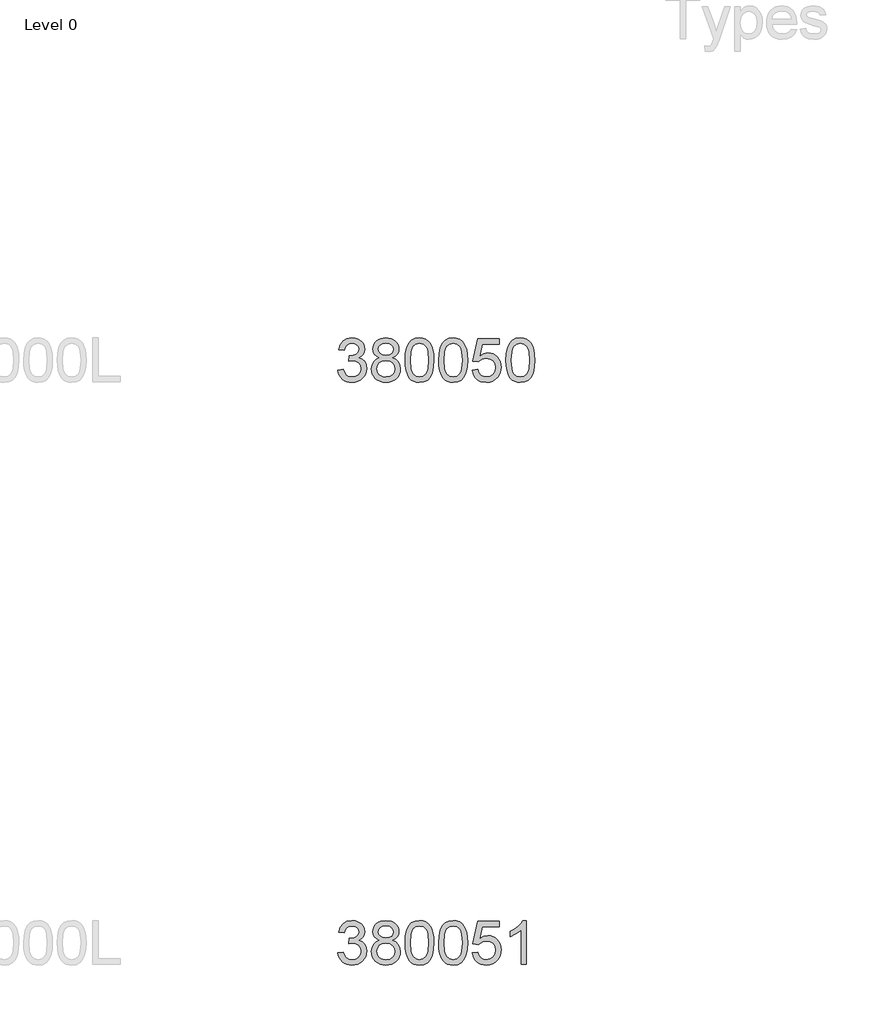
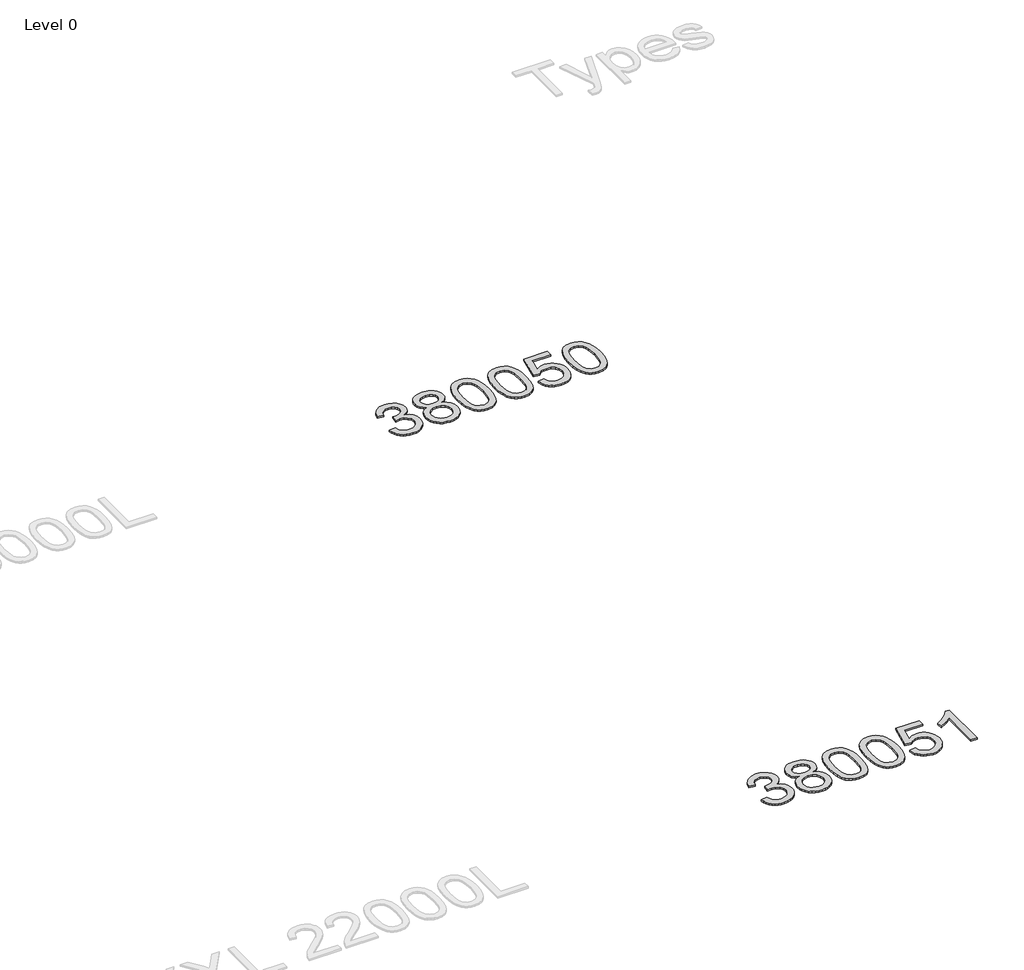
# One storey, part 17 of 37: 2 proxies.
"""IFC4 building model written with IfcOpenShell, lengths in millimetres."""

from ifc_helpers import new_model, si_unit, origin, origin_with_axes, place, context, project, spatial, polyline, outline, extrude, element, save

model = new_model("IFC4")

# Units and contexts
model_context = context("Model", 3, world=origin())
ifc_project = project(units=[si_unit("LENGTHUNIT", "METRE", prefix="MILLI")], contexts=[model_context])

# Site, building, storey
site = spatial("IfcSite", under=ifc_project)
building = spatial("IfcBuilding", under=site)
storey = spatial("IfcBuildingStorey", under=building, Name="Level 0", Elevation=0.0)

# Proxies
placement = place(None, origin())
element("IfcBuildingElementProxy", 1, Name="300mm Arial", ObjectType="300mm Arial", at=placement, inside=storey, context=model_context, shape_type="SweptSolid", body=[
    extrude(outline(polyline([(-6311.2846424, -1620.925676), (-6273.6135261, -1616.2167865), (-6265.1798313, -1639.8899929), (-6252.8281934, -1655.8744656), (-6235.9516068, -1664.979545), (-6213.9430665, -1668.0145714), (-6188.1177504, -1663.8391108), (-6168.1785463, -1651.3127288), (-6155.4314351, -1632.6243235), (-6151.1823981, -1609.9627926), (-6155.3946469, -1588.4508929), (-6168.0313935, -1571.0040893), (-6187.1612572, -1559.4433976), (-6210.8528577, -1555.5898337), (-6237.266785, -1559.710112), (-6233.0729302, -1522.0389957), (-6227.0396655, -1522.4804541), (-6204.4701051, -1519.7765215), (-6184.2917777, -1511.6647235), (-6170.0547444, -1497.942725), (-6165.3090667, -1478.4081911), (-6168.7487634, -1462.1386099), (-6179.0678533, -1448.9408433), (-6194.8132027, -1440.1944488), (-6214.5316777, -1437.278984), (-6234.2869408, -1440.22204), (-6250.4369604, -1449.0512079), (-6262.2275783, -1463.7664877), (-6268.9046365, -1484.3678794), (-6306.5757528, -1479.6589899), (-6295.4841107, -1445.8322404), (-6275.7472417, -1420.5771415), (-6248.7447032, -1404.8501862), (-6215.8560528, -1399.6078677), (-6192.1736494, -1402.1922387), (-6170.4226264, -1409.9453518), (-6152.083709, -1422.1774281), (-6138.637622, -1438.198689), (-6130.3878683, -1456.6571681), (-6127.6379504, -1476.2008991), (-6130.2499126, -1494.4110579), (-6138.0857991, -1510.9289595), (-6151.0352453, -1525.0004458), (-6168.9878867, -1535.8713587), (-6145.4066508, -1545.3995024), (-6127.932256, -1561.6230984), (-6117.1165253, -1583.6592299), (-6113.5112818, -1610.6249802), (-6115.3139036, -1629.7364498), (-6120.7217689, -1647.3396033), (-6129.7348778, -1663.4344406), (-6142.3532302, -1678.0209617), (-6157.7260991, -1690.1242793), (-6175.0027573, -1698.7695062), (-6194.1832048, -1703.9566423), (-6215.2674416, -1705.6856877), (-6234.323729, -1704.2095612), (-6251.6877592, -1699.7811817), (-6267.3595322, -1692.4005492), (-6281.339048, -1682.0676636), (-6293.0606881, -1669.3895304), (-6301.9588338, -1654.9731547), (-6308.0334853, -1638.8185366), (-6311.2846424, -1620.925676)])), origin_with_axes(), (0.0, 0.0, 1.0), 10.0),
    extrude(outline(polyline([(-6025.6610613, -1534.988442), (-6045.8301917, -1525.0556281), (-6059.9844515, -1511.5911471), (-6068.3445698, -1494.8709104), (-6071.1312759, -1475.1708295), (-6069.6137627, -1459.8071577), (-6065.061223, -1445.7218758), (-6057.4736569, -1432.9149839), (-6046.8510643, -1421.3864818), (-6033.7038815, -1411.8583382), (-6018.5425447, -1405.0525213), (-5982.1774095, -1399.6078677), (-5945.5915451, -1405.18128), (-5930.2646615, -1412.1480452), (-5916.9151436, -1421.9015166), (-5906.0994129, -1433.6553464), (-5898.373891, -1446.6231867), (-5893.7385779, -1460.8050376), (-5892.1934735, -1476.2008991), (-5894.9433914, -1495.2663835), (-5903.1931451, -1511.7015117), (-5917.0347052, -1525.0832192), (-5936.5600421, -1534.988442), (-5913.3742794, -1546.9354097), (-5896.4976928, -1564.5293662), (-5886.206194, -1586.9241826), (-5882.7756944, -1613.2737305), (-5884.4771486, -1632.0633034), (-5889.5815113, -1649.2893779), (-5898.0887825, -1664.9519538), (-5909.998962, -1679.0510313), (-5924.6866507, -1690.7036935), (-5941.526449, -1699.0270236), (-5960.518357, -1704.0210217), (-5981.6623747, -1705.6856877), (-6002.8063924, -1704.0141239), (-6021.7983004, -1698.9994325), (-6038.6380987, -1690.6416134), (-6053.3257874, -1678.9406667), (-6065.235967, -1664.7427209), (-6073.7432381, -1648.8939047), (-6078.8476008, -1631.3942181), (-6080.549055, -1612.2436609), (-6076.9805997, -1584.8732405), (-6066.2752336, -1562.3588624), (-6048.9847798, -1545.4730788), (-6025.6610613, -1534.988442)]), holes=[polyline([(-6033.4601596, -1476.2744755), (-6030.1216305, -1492.7188007), (-6020.1060432, -1505.8521879), (-6003.7077033, -1514.4606266), (-5981.2209163, -1517.3301062), (-5959.2583612, -1514.4790207), (-5943.1083416, -1505.9257643), (-5933.1755277, -1493.2338355), (-5929.8645898, -1477.9667327), (-5933.2858923, -1462.1202158), (-5943.5498, -1449.0144197), (-5959.9205488, -1440.2128429), (-5981.6623747, -1437.278984), (-6003.5421564, -1440.1484636), (-6019.885314, -1448.7569023), (-6030.0664482, -1461.3752547), (-6033.4601596, -1476.2744755)]), polyline([(-6042.8779387, -1610.9192858), (-6036.5871566, -1639.2829876), (-6027.8775504, -1651.4506846), (-6014.3302959, -1660.5097787), (-5998.1066999, -1666.1383732), (-5981.3680691, -1668.0145714), (-5955.726694, -1664.069037), (-5936.4864657, -1652.2324338), (-5924.4567245, -1634.3073836), (-5920.4468107, -1612.0965081), (-5924.5854832, -1589.5085536), (-5937.0015005, -1571.1880303), (-5956.6831872, -1559.0479244), (-5982.6188679, -1555.0012225), (-6007.901558, -1558.9927421), (-6026.9486483, -1570.9673011), (-6038.8956161, -1588.9383365), (-6042.8779387, -1610.9192858)])]), origin_with_axes(), (0.0, 0.0, 1.0), 10.0),
    extrude(outline(polyline([(-5849.8134676, -1552.7203541), (-5847.0451556, -1504.4818275), (-5838.7402196, -1466.0105679), (-5824.981433, -1436.717964), (-5805.8515692, -1416.0154047), (-5781.2126726, -1403.709752), (-5750.9267873, -1399.6078677), (-5727.7134334, -1402.0358889), (-5706.9281007, -1409.3199524), (-5689.5456764, -1421.1749497), (-5676.5410479, -1437.3157722), (-5666.7185986, -1457.6044643), (-5658.8827121, -1481.9030701), (-5653.7507583, -1512.7591724), (-5652.040107, -1552.7203541), (-5654.7808279, -1600.6829692), (-5663.0029905, -1639.0622584), (-5676.6790037, -1668.3824534), (-5695.7812763, -1689.1677861), (-5720.4753552, -1701.5562123), (-5750.9267873, -1705.6856877), (-5771.6753319, -1703.892263), (-5790.0694316, -1698.5119888), (-5806.1090866, -1689.5448652), (-5819.7942968, -1676.9908921), (-5832.9276841, -1654.2971715), (-5842.3086749, -1626.0208417), (-5847.9372695, -1592.1619025), (-5849.8134676, -1552.7203541)]), holes=[polyline([(-5812.1423513, -1552.6467777), (-5807.7277674, -1611.9033701), (-5802.2095375, -1632.1713688), (-5794.4840156, -1646.1991691), (-5774.7655406, -1662.5607208), (-5750.9267873, -1668.0145714), (-5727.088034, -1662.5423267), (-5707.3695591, -1646.1255927), (-5699.6440372, -1632.0747997), (-5694.1258073, -1611.8113996), (-5689.7112233, -1552.6467777), (-5693.9786545, -1494.7237576), (-5699.3129434, -1474.5224375), (-5706.7809479, -1460.1612441), (-5726.4626347, -1442.9995491), (-5751.3682457, -1437.278984), (-5774.9494816, -1442.3189674), (-5793.8954044, -1457.4389174), (-5801.8784437, -1473.0739022), (-5807.5806146, -1494.1535405), (-5812.1423513, -1552.6467777)])]), origin_with_axes(), (0.0, 0.0, 1.0), 10.0),
    extrude(outline(polyline([(-5619.0778803, -1552.7203541), (-5616.3095682, -1504.4818275), (-5608.0046322, -1466.0105679), (-5594.2458456, -1436.717964), (-5575.1159818, -1416.0154047), (-5550.4770852, -1403.709752), (-5520.1912, -1399.6078677), (-5496.9778461, -1402.0358889), (-5476.1925133, -1409.3199524), (-5458.8100891, -1421.1749497), (-5445.8054605, -1437.3157722), (-5435.9830113, -1457.6044643), (-5428.1471248, -1481.9030701), (-5423.0151709, -1512.7591724), (-5421.3045197, -1552.7203541), (-5424.0452405, -1600.6829692), (-5432.2674031, -1639.0622584), (-5445.9434163, -1668.3824534), (-5465.0456889, -1689.1677861), (-5489.7397678, -1701.5562123), (-5520.1912, -1705.6856877), (-5540.9397445, -1703.892263), (-5559.3338442, -1698.5119888), (-5575.3734992, -1689.5448652), (-5589.0587095, -1676.9908921), (-5602.1920967, -1654.2971715), (-5611.5730876, -1626.0208417), (-5617.2016821, -1592.1619025), (-5619.0778803, -1552.7203541)]), holes=[polyline([(-5581.406764, -1552.6467777), (-5576.99218, -1611.9033701), (-5571.4739501, -1632.1713688), (-5563.7484282, -1646.1991691), (-5544.0299532, -1662.5607208), (-5520.1912, -1668.0145714), (-5496.3524467, -1662.5423267), (-5476.6339717, -1646.1255927), (-5468.9084498, -1632.0747997), (-5463.3902199, -1611.8113996), (-5458.975636, -1552.6467777), (-5463.2430671, -1494.7237576), (-5468.577356, -1474.5224375), (-5476.0453605, -1460.1612441), (-5495.7270473, -1442.9995491), (-5520.6326584, -1437.278984), (-5544.2138942, -1442.3189674), (-5563.159817, -1457.4389174), (-5571.1428563, -1473.0739022), (-5576.8450272, -1494.1535405), (-5581.406764, -1552.6467777)])]), origin_with_axes(), (0.0, 0.0, 1.0), 10.0),
    extrude(outline(polyline([(-5388.3422929, -1620.925676), (-5350.6711766, -1616.2167865), (-5343.7549951, -1638.8323321), (-5331.6884656, -1655.028337), (-5314.5267706, -1664.7680128), (-5292.3250921, -1668.0145714), (-5265.3225537, -1663.4988199), (-5245.089044, -1649.9515654), (-5232.4522974, -1628.9363065), (-5228.2400486, -1602.0165415), (-5232.185583, -1576.669472), (-5244.0221862, -1557.2820909), (-5263.8418287, -1544.9764381), (-5291.736481, -1540.8745539), (-5310.0110191, -1542.5116288), (-5324.8090723, -1547.4228534), (-5345.962287, -1564.4190016), (-5383.6334033, -1559.710112), (-5350.6711766, -1404.3167573), (-5204.6956009, -1404.3167573), (-5204.6956009, -1441.9878736), (-5320.2105474, -1441.9878736), (-5336.3237788, -1524.9820517), (-5309.4132108, -1508.6480911), (-5281.2150559, -1503.2034376), (-5262.8692406, -1504.8910962), (-5246.017946, -1509.9540722), (-5230.661172, -1518.3923654), (-5216.7989185, -1530.205976), (-5205.3232995, -1544.6729355), (-5197.1264288, -1561.0712754), (-5192.2083064, -1579.4009958), (-5190.5689323, -1599.6620967), (-5196.4734383, -1637.333213), (-5203.8540708, -1654.1270261), (-5214.1869564, -1669.5596758), (-5229.8403353, -1685.364806), (-5248.1056763, -1696.6541847), (-5268.9829796, -1703.427812), (-5292.4722449, -1705.6856877), (-5329.4719766, -1699.8823492), (-5345.1506474, -1692.6281762), (-5358.9485215, -1682.4723338), (-5370.428739, -1669.92066), (-5379.1544401, -1655.4789924), (-5388.3422929, -1620.925676)])), origin_with_axes(), (0.0, 0.0, 1.0), 10.0),
    extrude(outline(polyline([(-5157.6067055, -1552.7203541), (-5154.8383935, -1504.4818275), (-5146.5334575, -1466.0105679), (-5132.7746708, -1436.717964), (-5113.6448071, -1416.0154047), (-5089.0059105, -1403.709752), (-5058.7200252, -1399.6078677), (-5035.5066713, -1402.0358889), (-5014.7213386, -1409.3199524), (-4997.3389143, -1421.1749497), (-4984.3342858, -1437.3157722), (-4974.5118365, -1457.6044643), (-4966.67595, -1481.9030701), (-4961.5439962, -1512.7591724), (-4959.8333449, -1552.7203541), (-4962.5740658, -1600.6829692), (-4970.7962284, -1639.0622584), (-4984.4722415, -1668.3824534), (-5003.5745141, -1689.1677861), (-5028.2685931, -1701.5562123), (-5058.7200252, -1705.6856877), (-5079.4685697, -1703.892263), (-5097.8626695, -1698.5119888), (-5113.9023245, -1689.5448652), (-5127.5875347, -1676.9908921), (-5140.7209219, -1654.2971715), (-5150.1019128, -1626.0208417), (-5155.7305073, -1592.1619025), (-5157.6067055, -1552.7203541)]), holes=[polyline([(-5119.9355892, -1552.6467777), (-5115.5210053, -1611.9033701), (-5110.0027753, -1632.1713688), (-5102.2772534, -1646.1991691), (-5082.5587785, -1662.5607208), (-5058.7200252, -1668.0145714), (-5034.8812719, -1662.5423267), (-5015.162797, -1646.1255927), (-5007.4372751, -1632.0747997), (-5001.9190452, -1611.8113996), (-4997.5044612, -1552.6467777), (-5001.7718924, -1494.7237576), (-5007.1061813, -1474.5224375), (-5014.5741858, -1460.1612441), (-5034.2558725, -1442.9995491), (-5059.1614836, -1437.278984), (-5082.7427195, -1442.3189674), (-5101.6886422, -1457.4389174), (-5109.6716815, -1473.0739022), (-5115.3738525, -1494.1535405), (-5119.9355892, -1552.6467777)])]), origin_with_axes(), (0.0, 0.0, 1.0), 10.0),
])
element("IfcBuildingElementProxy", 2, Name="300mm Arial", ObjectType="300mm Arial", at=placement, inside=storey, context=model_context, shape_type="SweptSolid", body=[
    extrude(outline(polyline([(-6311.2846424, -5620.925676), (-6273.6135261, -5616.2167865), (-6265.1798313, -5639.8899929), (-6252.8281934, -5655.8744656), (-6235.9516068, -5664.979545), (-6213.9430665, -5668.0145714), (-6188.1177504, -5663.8391108), (-6168.1785463, -5651.3127288), (-6155.4314351, -5632.6243235), (-6151.1823981, -5609.9627926), (-6155.3946469, -5588.4508929), (-6168.0313935, -5571.0040893), (-6187.1612572, -5559.4433976), (-6210.8528577, -5555.5898337), (-6237.266785, -5559.710112), (-6233.0729302, -5522.0389957), (-6227.0396655, -5522.4804541), (-6204.4701051, -5519.7765215), (-6184.2917777, -5511.6647235), (-6170.0547444, -5497.942725), (-6165.3090667, -5478.4081911), (-6168.7487634, -5462.1386099), (-6179.0678533, -5448.9408433), (-6194.8132027, -5440.1944488), (-6214.5316777, -5437.278984), (-6234.2869408, -5440.22204), (-6250.4369604, -5449.0512079), (-6262.2275783, -5463.7664877), (-6268.9046365, -5484.3678794), (-6306.5757528, -5479.6589899), (-6295.4841107, -5445.8322404), (-6275.7472417, -5420.5771415), (-6248.7447032, -5404.8501862), (-6215.8560528, -5399.6078677), (-6192.1736494, -5402.1922387), (-6170.4226264, -5409.9453518), (-6152.083709, -5422.1774281), (-6138.637622, -5438.198689), (-6130.3878683, -5456.6571681), (-6127.6379504, -5476.2008991), (-6130.2499126, -5494.4110579), (-6138.0857991, -5510.9289595), (-6151.0352453, -5525.0004458), (-6168.9878867, -5535.8713587), (-6145.4066508, -5545.3995024), (-6127.932256, -5561.6230984), (-6117.1165253, -5583.6592299), (-6113.5112818, -5610.6249802), (-6115.3139036, -5629.7364498), (-6120.7217689, -5647.3396033), (-6129.7348778, -5663.4344406), (-6142.3532302, -5678.0209617), (-6157.7260991, -5690.1242793), (-6175.0027573, -5698.7695062), (-6194.1832048, -5703.9566423), (-6215.2674416, -5705.6856877), (-6234.323729, -5704.2095612), (-6251.6877592, -5699.7811817), (-6267.3595322, -5692.4005492), (-6281.339048, -5682.0676636), (-6293.0606881, -5669.3895304), (-6301.9588338, -5654.9731547), (-6308.0334853, -5638.8185366), (-6311.2846424, -5620.925676)])), origin_with_axes(), (0.0, 0.0, 1.0), 10.0),
    extrude(outline(polyline([(-6025.6610613, -5534.988442), (-6045.8301917, -5525.0556281), (-6059.9844515, -5511.5911471), (-6068.3445698, -5494.8709104), (-6071.1312759, -5475.1708295), (-6069.6137627, -5459.8071577), (-6065.061223, -5445.7218758), (-6057.4736569, -5432.9149839), (-6046.8510643, -5421.3864818), (-6033.7038815, -5411.8583382), (-6018.5425447, -5405.0525213), (-5982.1774095, -5399.6078677), (-5945.5915451, -5405.18128), (-5930.2646615, -5412.1480452), (-5916.9151436, -5421.9015166), (-5906.0994129, -5433.6553464), (-5898.373891, -5446.6231867), (-5893.7385779, -5460.8050376), (-5892.1934735, -5476.2008991), (-5894.9433914, -5495.2663835), (-5903.1931451, -5511.7015117), (-5917.0347052, -5525.0832192), (-5936.5600421, -5534.988442), (-5913.3742794, -5546.9354097), (-5896.4976928, -5564.5293662), (-5886.206194, -5586.9241826), (-5882.7756944, -5613.2737305), (-5884.4771486, -5632.0633034), (-5889.5815113, -5649.2893779), (-5898.0887825, -5664.9519538), (-5909.998962, -5679.0510313), (-5924.6866507, -5690.7036935), (-5941.526449, -5699.0270236), (-5960.518357, -5704.0210217), (-5981.6623747, -5705.6856877), (-6002.8063924, -5704.0141239), (-6021.7983004, -5698.9994325), (-6038.6380987, -5690.6416134), (-6053.3257874, -5678.9406667), (-6065.235967, -5664.7427209), (-6073.7432381, -5648.8939047), (-6078.8476008, -5631.3942181), (-6080.549055, -5612.2436609), (-6076.9805997, -5584.8732405), (-6066.2752336, -5562.3588624), (-6048.9847798, -5545.4730788), (-6025.6610613, -5534.988442)]), holes=[polyline([(-6033.4601596, -5476.2744755), (-6030.1216305, -5492.7188007), (-6020.1060432, -5505.8521879), (-6003.7077033, -5514.4606266), (-5981.2209163, -5517.3301062), (-5959.2583612, -5514.4790207), (-5943.1083416, -5505.9257643), (-5933.1755277, -5493.2338355), (-5929.8645898, -5477.9667327), (-5933.2858923, -5462.1202158), (-5943.5498, -5449.0144197), (-5959.9205488, -5440.2128429), (-5981.6623747, -5437.278984), (-6003.5421564, -5440.1484636), (-6019.885314, -5448.7569023), (-6030.0664482, -5461.3752547), (-6033.4601596, -5476.2744755)]), polyline([(-6042.8779387, -5610.9192858), (-6036.5871566, -5639.2829876), (-6027.8775504, -5651.4506846), (-6014.3302959, -5660.5097787), (-5998.1066999, -5666.1383732), (-5981.3680691, -5668.0145714), (-5955.726694, -5664.069037), (-5936.4864657, -5652.2324338), (-5924.4567245, -5634.3073836), (-5920.4468107, -5612.0965081), (-5924.5854832, -5589.5085536), (-5937.0015005, -5571.1880303), (-5956.6831872, -5559.0479244), (-5982.6188679, -5555.0012225), (-6007.901558, -5558.9927421), (-6026.9486483, -5570.9673011), (-6038.8956161, -5588.9383365), (-6042.8779387, -5610.9192858)])]), origin_with_axes(), (0.0, 0.0, 1.0), 10.0),
    extrude(outline(polyline([(-5849.8134676, -5552.7203541), (-5847.0451556, -5504.4818275), (-5838.7402196, -5466.0105679), (-5824.981433, -5436.717964), (-5805.8515692, -5416.0154047), (-5781.2126726, -5403.709752), (-5750.9267873, -5399.6078677), (-5727.7134334, -5402.0358889), (-5706.9281007, -5409.3199524), (-5689.5456764, -5421.1749497), (-5676.5410479, -5437.3157722), (-5666.7185986, -5457.6044643), (-5658.8827121, -5481.9030701), (-5653.7507583, -5512.7591724), (-5652.040107, -5552.7203541), (-5654.7808279, -5600.6829692), (-5663.0029905, -5639.0622584), (-5676.6790037, -5668.3824534), (-5695.7812763, -5689.1677861), (-5720.4753552, -5701.5562123), (-5750.9267873, -5705.6856877), (-5771.6753319, -5703.892263), (-5790.0694316, -5698.5119888), (-5806.1090866, -5689.5448652), (-5819.7942968, -5676.9908921), (-5832.9276841, -5654.2971715), (-5842.3086749, -5626.0208417), (-5847.9372695, -5592.1619025), (-5849.8134676, -5552.7203541)]), holes=[polyline([(-5812.1423513, -5552.6467777), (-5807.7277674, -5611.9033701), (-5802.2095375, -5632.1713688), (-5794.4840156, -5646.1991691), (-5774.7655406, -5662.5607208), (-5750.9267873, -5668.0145714), (-5727.088034, -5662.5423267), (-5707.3695591, -5646.1255927), (-5699.6440372, -5632.0747997), (-5694.1258073, -5611.8113996), (-5689.7112233, -5552.6467777), (-5693.9786545, -5494.7237576), (-5699.3129434, -5474.5224375), (-5706.7809479, -5460.1612441), (-5726.4626347, -5442.9995491), (-5751.3682457, -5437.278984), (-5774.9494816, -5442.3189674), (-5793.8954044, -5457.4389174), (-5801.8784437, -5473.0739022), (-5807.5806146, -5494.1535405), (-5812.1423513, -5552.6467777)])]), origin_with_axes(), (0.0, 0.0, 1.0), 10.0),
    extrude(outline(polyline([(-5619.0778803, -5552.7203541), (-5616.3095682, -5504.4818275), (-5608.0046322, -5466.0105679), (-5594.2458456, -5436.717964), (-5575.1159818, -5416.0154047), (-5550.4770852, -5403.709752), (-5520.1912, -5399.6078677), (-5496.9778461, -5402.0358889), (-5476.1925133, -5409.3199524), (-5458.8100891, -5421.1749497), (-5445.8054605, -5437.3157722), (-5435.9830113, -5457.6044643), (-5428.1471248, -5481.9030701), (-5423.0151709, -5512.7591724), (-5421.3045197, -5552.7203541), (-5424.0452405, -5600.6829692), (-5432.2674031, -5639.0622584), (-5445.9434163, -5668.3824534), (-5465.0456889, -5689.1677861), (-5489.7397678, -5701.5562123), (-5520.1912, -5705.6856877), (-5540.9397445, -5703.892263), (-5559.3338442, -5698.5119888), (-5575.3734992, -5689.5448652), (-5589.0587095, -5676.9908921), (-5602.1920967, -5654.2971715), (-5611.5730876, -5626.0208417), (-5617.2016821, -5592.1619025), (-5619.0778803, -5552.7203541)]), holes=[polyline([(-5581.406764, -5552.6467777), (-5576.99218, -5611.9033701), (-5571.4739501, -5632.1713688), (-5563.7484282, -5646.1991691), (-5544.0299532, -5662.5607208), (-5520.1912, -5668.0145714), (-5496.3524467, -5662.5423267), (-5476.6339717, -5646.1255927), (-5468.9084498, -5632.0747997), (-5463.3902199, -5611.8113996), (-5458.975636, -5552.6467777), (-5463.2430671, -5494.7237576), (-5468.577356, -5474.5224375), (-5476.0453605, -5460.1612441), (-5495.7270473, -5442.9995491), (-5520.6326584, -5437.278984), (-5544.2138942, -5442.3189674), (-5563.159817, -5457.4389174), (-5571.1428563, -5473.0739022), (-5576.8450272, -5494.1535405), (-5581.406764, -5552.6467777)])]), origin_with_axes(), (0.0, 0.0, 1.0), 10.0),
    extrude(outline(polyline([(-5388.3422929, -5620.925676), (-5350.6711766, -5616.2167865), (-5343.7549951, -5638.8323321), (-5331.6884656, -5655.028337), (-5314.5267706, -5664.7680128), (-5292.3250921, -5668.0145714), (-5265.3225537, -5663.4988199), (-5245.089044, -5649.9515654), (-5232.4522974, -5628.9363065), (-5228.2400486, -5602.0165415), (-5232.185583, -5576.669472), (-5244.0221862, -5557.2820909), (-5263.8418287, -5544.9764381), (-5291.736481, -5540.8745539), (-5310.0110191, -5542.5116288), (-5324.8090723, -5547.4228534), (-5345.962287, -5564.4190016), (-5383.6334033, -5559.710112), (-5350.6711766, -5404.3167573), (-5204.6956009, -5404.3167573), (-5204.6956009, -5441.9878736), (-5320.2105474, -5441.9878736), (-5336.3237788, -5524.9820517), (-5309.4132108, -5508.6480911), (-5281.2150559, -5503.2034376), (-5262.8692406, -5504.8910962), (-5246.017946, -5509.9540722), (-5230.661172, -5518.3923654), (-5216.7989185, -5530.205976), (-5205.3232995, -5544.6729355), (-5197.1264288, -5561.0712754), (-5192.2083064, -5579.4009958), (-5190.5689323, -5599.6620967), (-5196.4734383, -5637.333213), (-5203.8540708, -5654.1270261), (-5214.1869564, -5669.5596758), (-5229.8403353, -5685.364806), (-5248.1056763, -5696.6541847), (-5268.9829796, -5703.427812), (-5292.4722449, -5705.6856877), (-5329.4719766, -5699.8823492), (-5345.1506474, -5692.6281762), (-5358.9485215, -5682.4723338), (-5370.428739, -5669.92066), (-5379.1544401, -5655.4789924), (-5388.3422929, -5620.925676)])), origin_with_axes(), (0.0, 0.0, 1.0), 10.0),
    extrude(outline(polyline([(-5016.3400194, -5700.9767982), (-5054.0111357, -5700.9767982), (-5054.0111357, -5466.1209325), (-5089.6956892, -5491.5415783), (-5129.3533683, -5510.5610775), (-5129.3533683, -5474.9501003), (-5099.7664588, -5458.8552631), (-5074.1342808, -5439.7070052), (-5053.9283622, -5419.3447368), (-5040.620231, -5399.6078677), (-5016.3400194, -5399.6078677), (-5016.3400194, -5700.9767982)])), origin_with_axes(), (0.0, 0.0, 1.0), 10.0),
])

save(model, "model.ifc")
